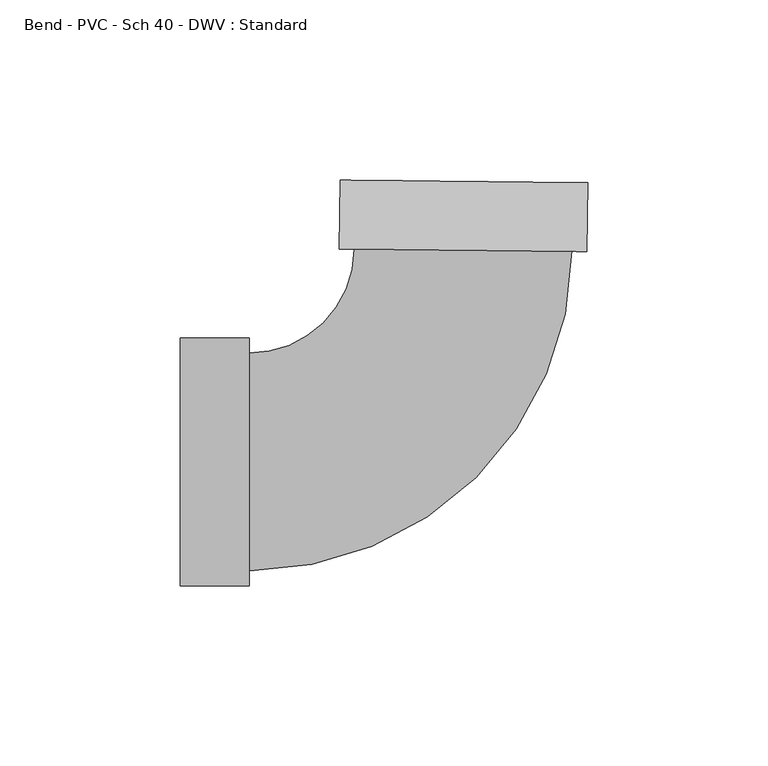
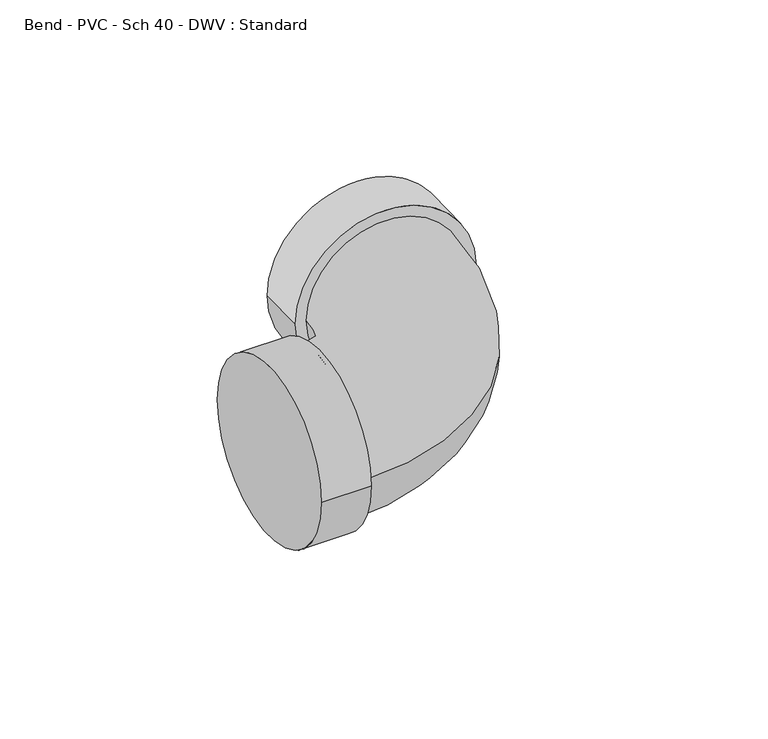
"""IFC4 building model written with IfcOpenShell, lengths in millimetres: pipe fitting geometry, Bend - PVC - Sch 40 - DWV : Standard."""

from ifc_helpers import new_model, si_unit, point, frame, origin, place, context, project, spatial, circle_curve, ellipse_curve, trimmed, source, transform, mapped, element, save
from ifc_brep_helpers import plane_surface, cylinder_surface, revolved_surface, advanced_brep


def bend_pvc_sch_40_dwv_standard_046886ae(model_context):
    return source(origin(), model_context, "Body", "AdvancedBrep", [
        advanced_brep(
        [(-77.8002, -34.3154, 0.0), (-77.8002, 34.3154, 0.0), (-58.7502, -34.3154, 0.0), (-58.7502, 34.3154, 0.0), (-58.7502, -30.1625, 0.0), (-58.7502, 30.1625, 0.0), (-29.5493483, 59.060972, 0.0), (30.7723837, 58.4330626, 0.0), (34.9250587, 58.389836, 0.0), (-33.7020234, 59.1041987, 0.0), (35.1233459, 77.438804, 0.0), (-33.5037362, 78.1531667, 0.0)],
        [
            (0, 1, circle_curve(frame((-77.8002, 0.0, 0.0), z_axis=(-1.0, 0.0, 0.0), x_axis=(0.0, 1.0, 0.0)), 34.3154)),
            (1, 0, circle_curve(frame((-77.8002, 0.0, 0.0), z_axis=(-1.0, 0.0, 0.0), x_axis=(0.0, 1.0, 0.0)), 34.3154)),
            (2, 3, circle_curve(frame((-58.7502, 0.0, 0.0), z_axis=(1.0, 0.0, 0.0), x_axis=(0.0, 1.0, 0.0)), 34.3154)),
            (3, 2, circle_curve(frame((-58.7502, 0.0, 0.0), z_axis=(1.0, 0.0, 0.0), x_axis=(0.0, 1.0, 0.0)), 34.3154)),
            (4, 5, circle_curve(frame((-58.7502, 0.0, 0.0), z_axis=(-1.0, 0.0, 0.0), x_axis=(0.0, 1.0, 0.0)), 30.1625)),
            (5, 4, circle_curve(frame((-58.7502, 0.0, 0.0), z_axis=(-1.0, 0.0, 0.0), x_axis=(0.0, 1.0, 0.0)), 30.1625)),
            (0, 2),
            (3, 1),
            (6, 5, circle_curve(frame((-58.7502, 59.3649336, 0.0), z_axis=(0.0, 0.0, -1.0), x_axis=(0.0, -1.0, 0.0)), 29.2024336)),
            (4, 7, circle_curve(frame((-58.7502, 59.3649336, 0.0), z_axis=(0.0, 0.0, 1.0), x_axis=(0.0, -1.0, 0.0)), 89.5274336)),
            (7, 6, circle_curve(frame((0.6115177, 58.7470173, 0.0), z_axis=(-0.010408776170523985, -0.999945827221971, 0.0), x_axis=(-0.999945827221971, 0.010408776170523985, 0.0)), 30.1625)),
            (6, 7, circle_curve(frame((0.6115177, 58.7470173, 0.0), z_axis=(-0.010408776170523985, -0.999945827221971, 0.0), x_axis=(-0.999945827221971, 0.010408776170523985, 0.0)), 30.1625)),
            (8, 9, circle_curve(frame((0.6115177, 58.7470173, 0.0), z_axis=(-0.010408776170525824, -0.9999458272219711, 0.0), x_axis=(-0.9999458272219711, 0.010408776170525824, 0.0)), 34.3154)),
            (9, 8, circle_curve(frame((0.6115177, 58.7470173, 0.0), z_axis=(-0.010408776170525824, -0.9999458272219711, 0.0), x_axis=(-0.9999458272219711, 0.010408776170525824, 0.0)), 34.3154)),
            (10, 11, circle_curve(frame((0.8098049, 77.7959853, 0.0), z_axis=(0.010408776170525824, 0.9999458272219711, 0.0), x_axis=(-0.9999458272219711, 0.010408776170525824, 0.0)), 34.3154)),
            (11, 10, circle_curve(frame((0.8098049, 77.7959853, 0.0), z_axis=(0.010408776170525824, 0.9999458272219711, 0.0), x_axis=(-0.9999458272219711, 0.010408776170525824, 0.0)), 34.3154)),
            (8, 10),
            (11, 9),
        ],
        [
            plane_surface(frame((-77.8002, 0.0, 0.0), z_axis=(-1.0, 0.0, 0.0), x_axis=(0.0, 0.0, 1.0))),
            plane_surface(frame((-58.7502, 0.0, 0.0), z_axis=(1.0, 0.0, 0.0), x_axis=(0.0, 0.0, 1.0))),
            cylinder_surface(frame((-77.8002, 0.0, 0.0), z_axis=(-1.0, 0.0, 0.0), x_axis=(0.0, 1.0, 0.0)), 34.3154),
            revolved_surface(trimmed(ellipse_curve(frame((-58.7502, 0.0, 0.0), z_axis=(-1.0, 0.0, 0.0), x_axis=(0.0, 1.0, 0.0)), 30.1625, 30.1625), [point((-58.7502, -30.1625, 0.0))], [point((-58.7502, 30.1625, 0.0))], True, "CARTESIAN"), (-58.7502, 59.3649336, 0.0), (0.0, 0.0, 1.0)),
            revolved_surface(trimmed(ellipse_curve(frame((-58.7502, 0.0, 0.0), z_axis=(-1.0, 0.0, 0.0), x_axis=(0.0, 1.0, 0.0)), 30.1625, 30.1625), [point((-58.7502, 30.1625, 0.0))], [point((-58.7502, -30.1625, 0.0))], True, "CARTESIAN"), (-58.7502, 59.3649336, 0.0), (0.0, 0.0, 1.0)),
            plane_surface(frame((0.6115177, 58.7470173, 0.0), z_axis=(-0.010408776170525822, -0.9999458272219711, 0.0), x_axis=(0.0, 0.0, 1.0))),
            plane_surface(frame((0.8098049, 77.7959853, 0.0), z_axis=(0.010408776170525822, 0.9999458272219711, 0.0), x_axis=(0.0, 0.0, 1.0))),
            cylinder_surface(frame((0.6115177, 58.7470173, 0.0), z_axis=(-0.010408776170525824, -0.9999458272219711, 0.0), x_axis=(-0.9999458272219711, 0.010408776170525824, 0.0)), 34.3154),
        ],
        [
            (0, [[1, 2]]),
            (1, [[3, 4], [5, 6]]),
            (2, [[-1, 7, -4, 8]]),
            (2, [[-2, -8, -3, -7]]),
            (3, [[9, -5, 10, 11]]),
            (4, [[-9, 12, -10, -6]]),
            (5, [[13, 14], [-11, -12]]),
            (6, [[15, 16]]),
            (7, [[-13, 17, -16, 18]]),
            (7, [[-14, -18, -15, -17]]),
        ],
    ),
    ])


if __name__ == "__main__":
    model = new_model("IFC4")
    model_context = context("Model", 3, world=origin())
    ifc_project = project(units=[si_unit("LENGTHUNIT", "METRE", prefix="MILLI")], contexts=[model_context])
    site = spatial("IfcSite", under=ifc_project)
    building = spatial("IfcBuilding", under=site)
    placement = place(None, origin())
    bend_pvc_sch_40_dwv_standard_shape = bend_pvc_sch_40_dwv_standard_046886ae(model_context)
    element("IfcPipeFitting", 1, ObjectType="Bend - PVC - Sch 40 - DWV : Standard", at=placement, inside=building, context=model_context, shape_type="MappedRepresentation", body=[
        mapped(bend_pvc_sch_40_dwv_standard_shape, transform((0.0, 0.0, 0.0), x_axis=(1.0, 0.0, 0.0), y_axis=(0.0, 1.0, 0.0), z_axis=(0.0, 0.0, 1.0))),
    ])
    save(model, "model.ifc")
